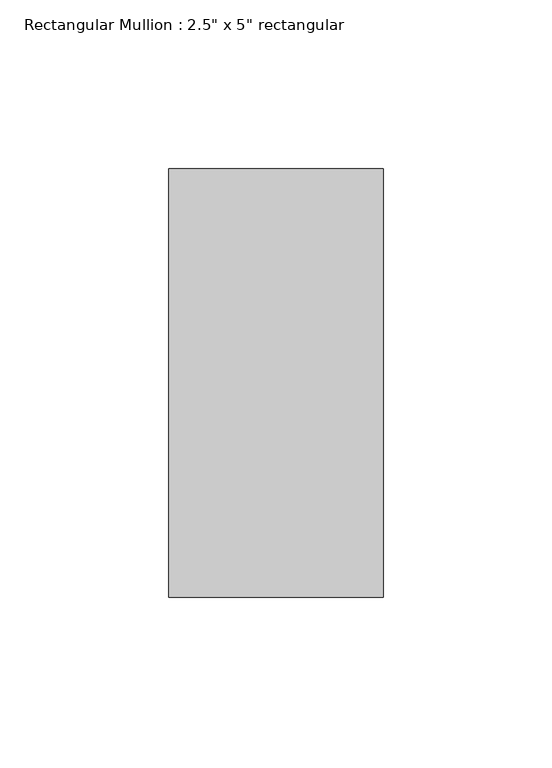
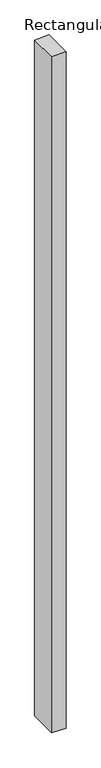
"""IFC4 building model written with IfcOpenShell, lengths in millimetres: member geometry."""

from ifc_helpers import new_model, si_unit, frame, origin, place, context, project, spatial, polyline, outline, extrude, source, transform, mapped, element, save


def member_56d0ea82(model_context):
    return source(origin(), model_context, "Body", "SweptSolid", [
        extrude(outline(polyline([(0.0, 0.0), (-2.2464826, -63.5), (-3115.3827384, -63.5), (-3117.5656946, 0.0), (0.0, 0.0)])), frame((0.0, -63.5, 0.0), z_axis=(0.0, 1.0, 0.0), x_axis=(0.0, 0.0, 1.0)), (0.0, 0.0, 1.0), 127.0),
    ])


if __name__ == "__main__":
    model = new_model("IFC4")
    model_context = context("Model", 3, world=origin())
    ifc_project = project(units=[si_unit("LENGTHUNIT", "METRE", prefix="MILLI")], contexts=[model_context])
    site = spatial("IfcSite", under=ifc_project)
    building = spatial("IfcBuilding", under=site)
    placement = place(None, origin())
    member_shape = member_56d0ea82(model_context)
    element("IfcMember", 1, ObjectType="Rectangular Mullion : 2.5\" x 5\" rectangular", at=placement, inside=building, context=model_context, shape_type="MappedRepresentation", body=[
        mapped(member_shape, transform((0.0, 0.0, 0.0), x_axis=(1.0, 0.0, 0.0), y_axis=(0.0, 1.0, 0.0), z_axis=(0.0, 0.0, 1.0))),
    ])
    save(model, "model.ifc")
